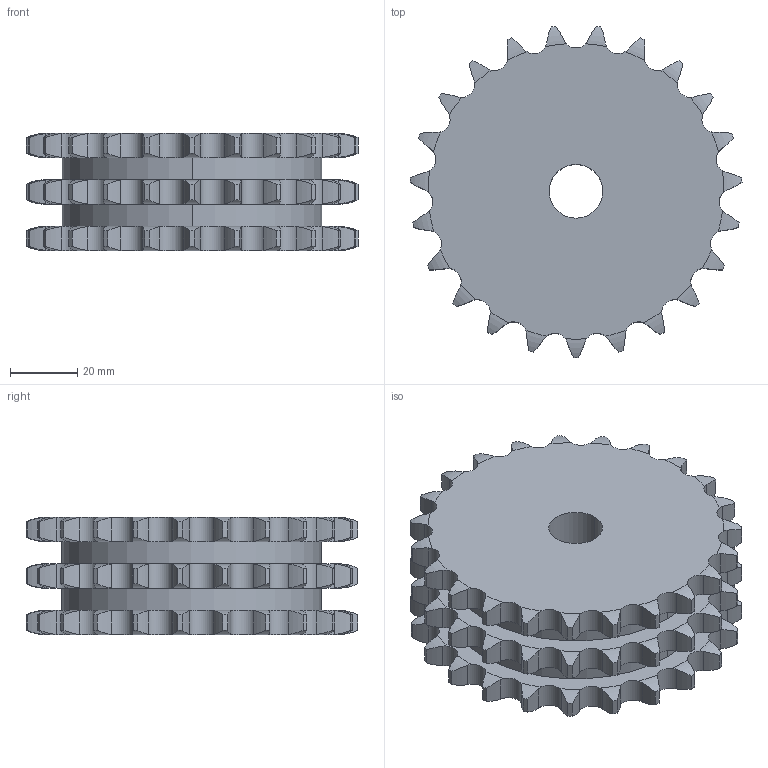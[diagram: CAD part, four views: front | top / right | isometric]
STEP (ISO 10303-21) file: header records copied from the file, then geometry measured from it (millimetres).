
FILE_DESCRIPTION((''),'2;1');
FILE_NAME('500-203-0023_PRT','2021-02-12T',('Brieden'),('Brieden'),'PRO/ENGINEER BY PARAMETRIC TECHNOLOGY CORPORATION, 2010160','PRO/ENGINEER BY PARAMETRIC TECHNOLOGY CORPORATION, 2010160','');
FILE_SCHEMA(('AUTOMOTIVE_DESIGN { 1 0 10303 214 1 1 1 1 }'));
Length unit declared in the file: millimetre
Products named in the file (1): 500-203-0023_PRT
Bounding box: 98.86 x 98.63 x 34.9 mm (x, y, z)
Volume: 194210.2 mm3; surface area: 33701.9 mm2
Topology: 1 solids, 1 shells, 426 faces, 1260 edges, 840 vertices
Faces by surface type: cylinder 282, torus 138, plane 6
Entity records: 20337 total; most frequent: CARTESIAN_POINT 5766, ORIENTED_EDGE 2520, DIRECTION 1986, PRESENTATION_STYLE_ASSIGNMENT 1261, STYLED_ITEM 1261, CURVE_STYLE 1260, EDGE_CURVE 1260, AXIS2_PLACEMENT_3D 852
